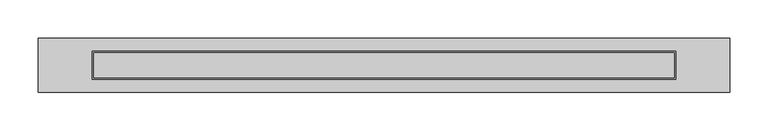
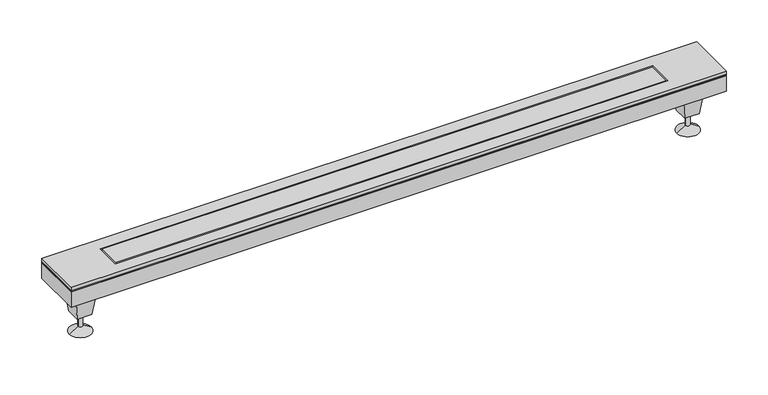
"""IFC4 building model written with IfcOpenShell, lengths in millimetres: sanitary terminal geometry, NLRS_PF_52_UN_XS Z4 Complete Set_Easydrain : XS-Z4 Brushed with M2 flat siphon."""

from ifc_helpers import new_model, si_unit, frame, origin, place, context, project, spatial, polyline, circle_curve, outline, extrude, faceted_brep, source, transform, mapped, element, save
from ifc_brep_helpers import plane_surface, cylinder_surface, revolved_surface, advanced_brep


def sanitary_terminal_43092b2e(model_context):
    return source(origin(), model_context, "Body", "SolidModel", [
        advanced_brep(
        [(420.5, 0.0, -69.0), (414.5, 0.0, -69.0), (417.5, 0.0, -69.0), (420.5, 0.0, -87.5), (414.5, 0.0, -87.5), (432.5, 0.0, -95.0), (402.5, 0.0, -95.0), (417.5, 0.0, -95.0)],
        [
            (0, 1, circle_curve(frame((417.5, 0.0, -69.0), z_axis=(0.0, 0.0, 1.0), x_axis=(-1.0, 0.0, 0.0)), 3.0)),
            (1, 2),
            (2, 0),
            (1, 0, circle_curve(frame((417.5, 0.0, -69.0), z_axis=(0.0, 0.0, 1.0), x_axis=(-1.0, 0.0, 0.0)), 3.0)),
            (3, 4, circle_curve(frame((417.5, 0.0, -87.5), z_axis=(0.0, 0.0, 1.0), x_axis=(-1.0, 0.0, 0.0)), 3.0)),
            (4, 1),
            (0, 3),
            (4, 3, circle_curve(frame((417.5, 0.0, -87.5), z_axis=(0.0, 0.0, 1.0), x_axis=(-1.0, 0.0, 0.0)), 3.0)),
            (5, 6, circle_curve(frame((417.5, 0.0, -95.0), z_axis=(0.0, 0.0, 1.0), x_axis=(-1.0, 0.0, 0.0)), 15.0)),
            (6, 4),
            (3, 5),
            (6, 5, circle_curve(frame((417.5, 0.0, -95.0), z_axis=(0.0, 0.0, 1.0), x_axis=(-1.0, 0.0, 0.0)), 15.0)),
            (7, 6),
            (5, 7),
        ],
        [
            plane_surface(frame((417.5, 0.0, -69.0), z_axis=(0.0, 0.0, 1.0), x_axis=(-1.0, 0.0, 0.0))),
            cylinder_surface(frame((417.5, 0.0, -103.1782032), z_axis=(0.0, 0.0, -1.0), x_axis=(-1.0, 0.0, 0.0)), 3.0),
            revolved_surface(polyline([(414.5, 0.0, -87.5), (402.5, 0.0, -95.0)]), (417.5, 0.0, -103.1782032), (0.0, 0.0, -1.0)),
            plane_surface(frame((417.5, 0.0, -95.0), z_axis=(0.0, 0.0, -1.0), x_axis=(-1.0, 0.0, 0.0))),
        ],
        [
            (0, [[1, 2, 3]]),
            (0, [[4, -3, -2]]),
            (1, [[5, 6, -1, 7]]),
            (1, [[8, -7, -4, -6]]),
            (2, [[9, 10, -5, 11]]),
            (2, [[12, -11, -8, -10]]),
            (3, [[13, -9, 14]]),
            (3, [[-14, -12, -13]]),
        ],
    ),
        faceted_brep([(407.5, 10.0, -69.0), (427.5, 10.0, -69.0), (427.5, -10.0, -69.0), (407.5, -10.0, -69.0), (402.5, 15.0, -29.0), (402.5, -15.0, -29.0), (432.5, -15.0, -29.0), (432.5, 15.0, -29.0)], [[[0, 1, 2, 3]], [[4, 5, 6, 7]], [[5, 4, 0, 3]], [[6, 5, 3, 2]], [[7, 6, 2, 1]], [[4, 7, 1, 0]]]),
        advanced_brep(
        [(-414.5, 0.0, -69.0), (-420.5, 0.0, -69.0), (-417.5, 0.0, -69.0), (-414.5, 0.0, -87.5), (-420.5, 0.0, -87.5), (-402.5, 0.0, -95.0), (-432.5, 0.0, -95.0), (-417.5, 0.0, -95.0)],
        [
            (0, 1, circle_curve(frame((-417.5, 0.0, -69.0), z_axis=(0.0, 0.0, 1.0), x_axis=(-1.0, 0.0, 0.0)), 3.0)),
            (1, 2),
            (2, 0),
            (1, 0, circle_curve(frame((-417.5, 0.0, -69.0), z_axis=(0.0, 0.0, 1.0), x_axis=(-1.0, 0.0, 0.0)), 3.0)),
            (3, 4, circle_curve(frame((-417.5, 0.0, -87.5), z_axis=(0.0, 0.0, 1.0), x_axis=(-1.0, 0.0, 0.0)), 3.0)),
            (4, 1),
            (0, 3),
            (4, 3, circle_curve(frame((-417.5, 0.0, -87.5), z_axis=(0.0, 0.0, 1.0), x_axis=(-1.0, 0.0, 0.0)), 3.0)),
            (5, 6, circle_curve(frame((-417.5, 0.0, -95.0), z_axis=(0.0, 0.0, 1.0), x_axis=(-1.0, 0.0, 0.0)), 15.0)),
            (6, 4),
            (3, 5),
            (6, 5, circle_curve(frame((-417.5, 0.0, -95.0), z_axis=(0.0, 0.0, 1.0), x_axis=(-1.0, 0.0, 0.0)), 15.0)),
            (7, 6),
            (5, 7),
        ],
        [
            plane_surface(frame((-417.5, 0.0, -69.0), z_axis=(0.0, 0.0, 1.0), x_axis=(-1.0, 0.0, 0.0))),
            cylinder_surface(frame((-417.5, 0.0, -103.1782032), z_axis=(0.0, 0.0, -1.0), x_axis=(-1.0, 0.0, 0.0)), 3.0),
            revolved_surface(polyline([(-420.5, 0.0, -87.5), (-432.5, 0.0, -95.0)]), (-417.5, 0.0, -103.1782032), (0.0, 0.0, -1.0)),
            plane_surface(frame((-417.5, 0.0, -95.0), z_axis=(0.0, 0.0, -1.0), x_axis=(-1.0, 0.0, 0.0))),
        ],
        [
            (0, [[1, 2, 3]]),
            (0, [[4, -3, -2]]),
            (1, [[5, 6, -1, 7]]),
            (1, [[8, -7, -4, -6]]),
            (2, [[9, 10, -5, 11]]),
            (2, [[12, -11, -8, -10]]),
            (3, [[13, -9, 14]]),
            (3, [[-14, -12, -13]]),
        ],
    ),
        faceted_brep([(-427.5, 10.0, -69.0), (-407.5, 10.0, -69.0), (-407.5, -10.0, -69.0), (-427.5, -10.0, -69.0), (-432.5, 15.0, -29.0), (-432.5, -15.0, -29.0), (-402.5, -15.0, -29.0), (-402.5, 15.0, -29.0)], [[[0, 1, 2, 3]], [[4, 5, 6, 7]], [[5, 4, 0, 3]], [[6, 5, 3, 2]], [[7, 6, 2, 1]], [[4, 7, 1, 0]]]),
        extrude(outline(polyline([(450.0, 35.0), (450.0, -35.0), (-450.0, -35.0), (-450.0, 35.0), (450.0, 35.0)])), frame((0.0, 0.0, -6.4659054), z_axis=(0.0, 0.0, 1.0), x_axis=(1.0, 0.0, 0.0)), (0.0, 0.0, 1.0), 1.4659054),
        extrude(outline(polyline([(450.0, 35.0), (450.0, -35.0), (-450.0, -35.0), (-450.0, 35.0), (450.0, 35.0)])), frame((0.0, 0.0, -29.0), z_axis=(0.0, 0.0, 1.0), x_axis=(1.0, 0.0, 0.0)), (0.0, 0.0, 1.0), 24.0),
        extrude(outline(polyline([(450.0, 35.0), (450.0, -35.0), (-450.0, -35.0), (-450.0, 35.0), (450.0, 35.0)]), holes=[polyline([(380.0, 18.0), (-380.0, 18.0), (-380.0, -18.0), (380.0, -18.0), (380.0, 18.0)])]), frame((0.0, 0.0, -5.0), z_axis=(0.0, 0.0, 1.0), x_axis=(1.0, 0.0, 0.0)), (0.0, 0.0, 1.0), 5.0),
        extrude(outline(polyline([(378.0, 16.0), (378.0, -16.0), (-378.0, -16.0), (-378.0, 16.0), (378.0, 16.0)])), frame((0.0, 0.0, -5.0), z_axis=(0.0, 0.0, 1.0), x_axis=(1.0, 0.0, 0.0)), (0.0, 0.0, 1.0), 5.0),
    ])


if __name__ == "__main__":
    model = new_model("IFC4")
    model_context = context("Model", 3, world=origin())
    ifc_project = project(units=[si_unit("LENGTHUNIT", "METRE", prefix="MILLI")], contexts=[model_context])
    site = spatial("IfcSite", under=ifc_project)
    building = spatial("IfcBuilding", under=site)
    placement = place(None, origin())
    sanitary_terminal_shape = sanitary_terminal_43092b2e(model_context)
    element("IfcSanitaryTerminal", 1, ObjectType="NLRS_PF_52_UN_XS Z4 Complete Set_Easydrain : XS-Z4 Brushed with M2 flat siphon", at=placement, inside=building, context=model_context, shape_type="MappedRepresentation", body=[
        mapped(sanitary_terminal_shape, transform((0.0, 0.0, 0.0), x_axis=(1.0, 0.0, 0.0), y_axis=(0.0, 1.0, 0.0), z_axis=(0.0, 0.0, 1.0))),
    ])
    save(model, "model.ifc")
